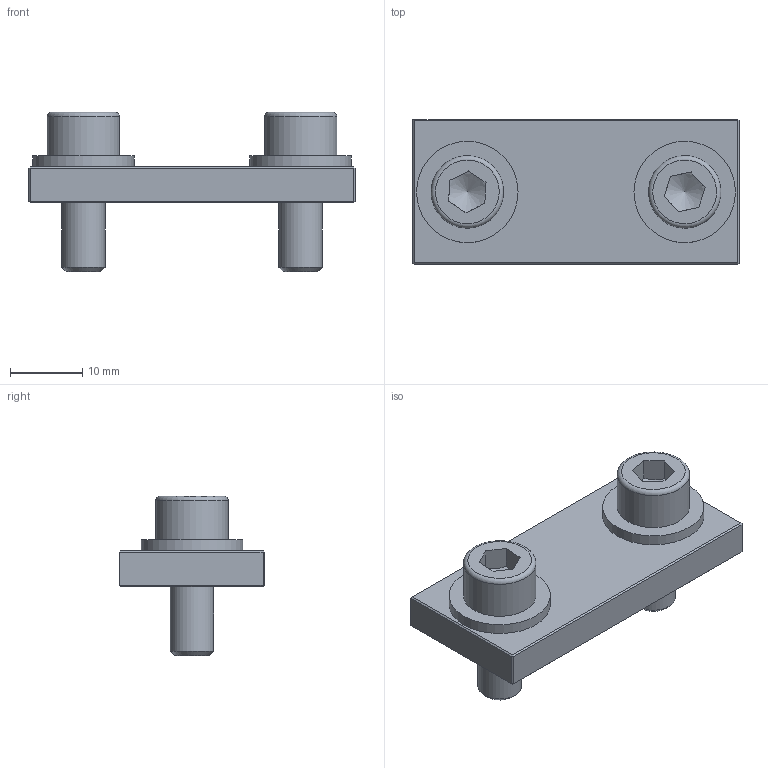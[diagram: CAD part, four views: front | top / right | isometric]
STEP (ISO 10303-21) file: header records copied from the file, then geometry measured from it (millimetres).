
FILE_DESCRIPTION((''),'2;1');
FILE_NAME('H:\3D-Entwürfe\Befestigungsteile\3D Modelle andere Formate\A\STEP\A30.stp','2010-03-02T13:29:47',('karin.hoppmann'),(''),'Autodesk Inventor 2009','Autodesk Inventor 2009','');
FILE_SCHEMA(('AUTOMOTIVE_DESIGN { 1 0 10303 214 1 1 1 1 }'));
Length unit declared in the file: millimetre
Products named in the file (4): A30; DIN EN ISO 4762 M6 x 16; DIN 6796 6
Assembly tree (5 placements, depth 2):
  A30
    A30
    DIN EN ISO 4762 M6 x 16  x2
    DIN 6796 6  x2
Bounding box: 45 x 20 x 22 mm (x, y, z)
Volume: 6214.3 mm3; surface area: 4537.5 mm2
Topology: 5 solids, 5 shells, 67 faces, 135 edges, 80 vertices
Faces by surface type: plane 45, cone 8, cylinder 8, bspline 4, torus 2
Full cylindrical faces by diameter (mm): 6 x2, 6.4 x2, 10 x2, 14 x2
Entity records: 1315 total; most frequent: CARTESIAN_POINT 280, DIRECTION 201, ORIENTED_EDGE 160, EDGE_CURVE 80, AXIS2_PLACEMENT_3D 73, EDGE_LOOP 69, VECTOR 55, LINE 55
